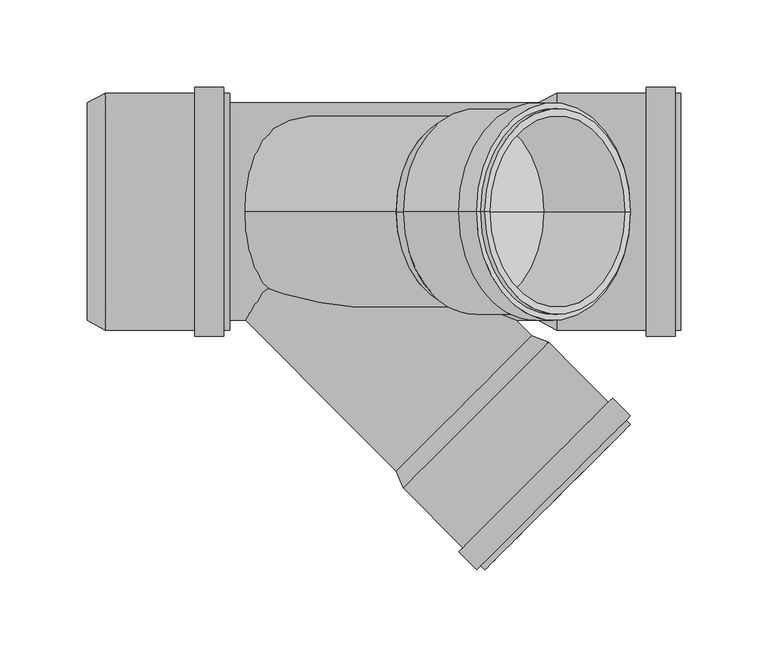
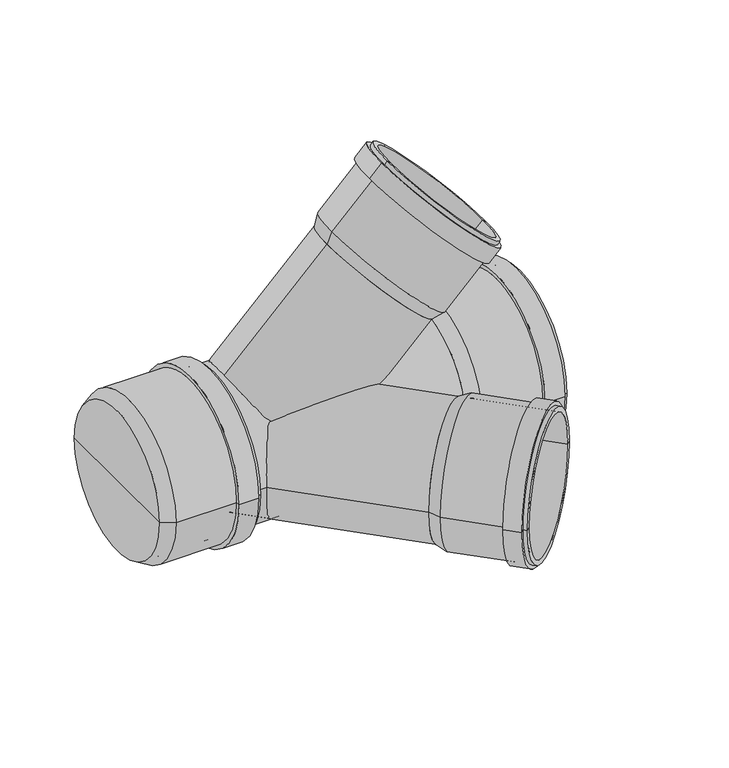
"""IFC4 building model written with IfcOpenShell, lengths in millimetres: pipe fitting geometry, pf_HTED : pf_HTED."""

from ifc_helpers import new_model, si_unit, point, frame, origin, origin_2d, place, context, project, spatial, polyline, circle_curve, trimmed, segment, composite_curve, outline, extrude, source, transform, mapped, element, save
from ifc_brep_helpers import plane_surface, cylinder_surface, revolved_surface, advanced_brep


def pipe_fitting_5b2e1e2c(model_context):
    return source(origin(), model_context, "Body", "SolidModel", [
        advanced_brep(
        [(149.1288202, 0.0, 71.3470742), (71.3470742, 0.0, 149.1288202), (75.1654508, 0.0, 158.7454724), (158.7454724, 0.0, 75.1654508), (110.2379472, 0.0, 110.2379472), (205.7680733, 0.0, 122.1880518), (122.1880518, 0.0, 205.7680733), (125.0871896, 0.0, 202.8689355), (202.8689355, 0.0, 125.0871896), (203.3639103, 0.0, 119.7838887), (119.7838887, 0.0, 203.3639103), (205.7680733, 0.0, 117.3797257), (117.3797257, 0.0, 205.7680733), (195.515025, 0.0, 107.1266773), (107.1266773, 0.0, 195.515025), (193.1108619, 0.0, 109.5308404), (109.5308404, 0.0, 193.1108619), (155.8463346, 0.0, 78.0645886), (78.0645886, 0.0, 155.8463346), (116.9554616, 0.0, 116.9554616)],
        [
            (0, 1, circle_curve(frame((110.2379472, 0.0, 110.2379472), z_axis=(0.707106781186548, 0.0, 0.7071067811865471), x_axis=(-0.7071067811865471, 0.0, 0.707106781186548)), 55.0)),
            (1, 2),
            (2, 3, circle_curve(frame((116.9554616, 0.0, 116.9554616), z_axis=(-0.707106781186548, 0.0, -0.7071067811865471), x_axis=(-0.7071067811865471, 0.0, 0.707106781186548)), 59.1)),
            (3, 0),
            (1, 0, circle_curve(frame((110.2379472, 0.0, 110.2379472), z_axis=(0.707106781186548, 0.0, 0.7071067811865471), x_axis=(-0.7071067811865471, 0.0, 0.707106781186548)), 55.0)),
            (3, 2, circle_curve(frame((116.9554616, 0.0, 116.9554616), z_axis=(-0.707106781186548, 0.0, -0.7071067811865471), x_axis=(-0.7071067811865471, 0.0, 0.707106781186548)), 59.1)),
            (4, 1),
            (0, 4),
            (5, 6, circle_curve(frame((163.9780626, 0.0, 163.9780626), z_axis=(0.707106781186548, 0.0, 0.7071067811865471), x_axis=(-0.7071067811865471, 0.0, 0.707106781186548)), 59.1)),
            (6, 7),
            (7, 8, circle_curve(frame((163.9780626, 0.0, 163.9780626), z_axis=(-0.707106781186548, 0.0, -0.7071067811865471), x_axis=(-0.7071067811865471, 0.0, 0.707106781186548)), 55.0)),
            (8, 5),
            (6, 5, circle_curve(frame((163.9780626, 0.0, 163.9780626), z_axis=(0.707106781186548, 0.0, 0.7071067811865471), x_axis=(-0.7071067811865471, 0.0, 0.707106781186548)), 59.1)),
            (8, 7, circle_curve(frame((163.9780626, 0.0, 163.9780626), z_axis=(-0.707106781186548, 0.0, -0.7071067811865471), x_axis=(-0.7071067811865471, 0.0, 0.707106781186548)), 55.0)),
            (9, 10, circle_curve(frame((161.5738995, 0.0, 161.5738995), z_axis=(0.707106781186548, 0.0, 0.7071067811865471), x_axis=(-0.7071067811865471, 0.0, 0.707106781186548)), 59.1)),
            (10, 6),
            (5, 9),
            (10, 9, circle_curve(frame((161.5738995, 0.0, 161.5738995), z_axis=(0.707106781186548, 0.0, 0.7071067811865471), x_axis=(-0.7071067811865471, 0.0, 0.707106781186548)), 59.1)),
            (11, 12, circle_curve(frame((161.5738995, 0.0, 161.5738995), z_axis=(0.707106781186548, 0.0, 0.7071067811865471), x_axis=(-0.7071067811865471, 0.0, 0.707106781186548)), 62.5)),
            (12, 10),
            (9, 11),
            (12, 11, circle_curve(frame((161.5738995, 0.0, 161.5738995), z_axis=(0.707106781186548, 0.0, 0.7071067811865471), x_axis=(-0.7071067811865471, 0.0, 0.707106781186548)), 62.5)),
            (13, 14, circle_curve(frame((151.3208512, 0.0, 151.3208512), z_axis=(0.707106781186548, 0.0, 0.7071067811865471), x_axis=(-0.7071067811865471, 0.0, 0.707106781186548)), 62.5)),
            (14, 12),
            (11, 13),
            (14, 13, circle_curve(frame((151.3208512, 0.0, 151.3208512), z_axis=(0.707106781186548, 0.0, 0.7071067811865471), x_axis=(-0.7071067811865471, 0.0, 0.707106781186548)), 62.5)),
            (15, 16, circle_curve(frame((151.3208512, 0.0, 151.3208512), z_axis=(0.707106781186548, 0.0, 0.7071067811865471), x_axis=(-0.7071067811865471, 0.0, 0.707106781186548)), 59.1)),
            (16, 14),
            (13, 15),
            (16, 15, circle_curve(frame((151.3208512, 0.0, 151.3208512), z_axis=(0.707106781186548, 0.0, 0.7071067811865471), x_axis=(-0.7071067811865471, 0.0, 0.707106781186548)), 59.1)),
            (2, 16),
            (15, 3),
            (17, 18, circle_curve(frame((116.9554616, 0.0, 116.9554616), z_axis=(0.707106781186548, 0.0, 0.7071067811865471), x_axis=(-0.7071067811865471, 0.0, 0.707106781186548)), 55.0)),
            (18, 19),
            (19, 17),
            (18, 17, circle_curve(frame((116.9554616, 0.0, 116.9554616), z_axis=(0.707106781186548, 0.0, 0.7071067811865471), x_axis=(-0.7071067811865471, 0.0, 0.707106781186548)), 55.0)),
            (7, 18),
            (17, 8),
        ],
        [
            revolved_surface(polyline([(75.1654508, 0.0, 158.7454724), (71.3470742, 0.0, 149.1288202)]), (110.2379472, 0.0, 110.2379472), (-0.707106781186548, 0.0, -0.7071067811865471)),
            plane_surface(frame((110.2379472, 0.0, 110.2379472), z_axis=(-0.707106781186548, 0.0, -0.7071067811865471), x_axis=(-0.7071067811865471, 0.0, 0.707106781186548))),
            plane_surface(frame((163.9780626, 0.0, 163.9780626), z_axis=(0.707106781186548, 0.0, 0.7071067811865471), x_axis=(-0.7071067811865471, 0.0, 0.707106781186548))),
            cylinder_surface(frame((110.2379472, 0.0, 110.2379472), z_axis=(-0.707106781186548, 0.0, -0.7071067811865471), x_axis=(-0.7071067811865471, 0.0, 0.707106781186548)), 59.1),
            plane_surface(frame((161.5738995, 0.0, 161.5738995), z_axis=(0.707106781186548, 0.0, 0.7071067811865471), x_axis=(-0.7071067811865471, 0.0, 0.707106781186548))),
            cylinder_surface(frame((110.2379472, 0.0, 110.2379472), z_axis=(-0.707106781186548, 0.0, -0.7071067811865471), x_axis=(-0.7071067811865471, 0.0, 0.707106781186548)), 62.5),
            plane_surface(frame((151.3208512, 0.0, 151.3208512), z_axis=(-0.707106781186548, 0.0, -0.7071067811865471), x_axis=(-0.7071067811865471, 0.0, 0.707106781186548))),
            plane_surface(frame((116.9554616, 0.0, 116.9554616), z_axis=(0.707106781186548, 0.0, 0.7071067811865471), x_axis=(-0.7071067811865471, 0.0, 0.707106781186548))),
            revolved_surface(polyline([(78.06458863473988, 0.0, 155.84633456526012), (125.08718963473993, 0.0, 202.86893556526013)]), (110.2379472, 0.0, 110.2379472), (-0.707106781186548, 0.0, -0.7071067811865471)),
        ],
        [
            (0, [[1, 2, 3, 4]]),
            (0, [[5, -4, 6, -2]]),
            (1, [[7, -1, 8]]),
            (1, [[-8, -5, -7]]),
            (2, [[9, 10, 11, 12]]),
            (2, [[13, -12, 14, -10]]),
            (3, [[15, 16, -9, 17]]),
            (3, [[18, -17, -13, -16]]),
            (4, [[19, 20, -15, 21]]),
            (4, [[22, -21, -18, -20]]),
            (5, [[23, 24, -19, 25]]),
            (5, [[26, -25, -22, -24]]),
            (6, [[27, 28, -23, 29]]),
            (6, [[30, -29, -26, -28]]),
            (3, [[-3, 31, -27, 32]]),
            (3, [[-6, -32, -30, -31]]),
            (7, [[33, 34, 35]]),
            (7, [[36, -35, -34]]),
            (8, [[-11, 37, -33, 38]]),
            (8, [[-14, -38, -36, -37]]),
        ],
    ),
        advanced_brep(
        [(71.3470742, -149.1288202, 0.0), (149.1288202, -71.3470742, 0.0), (158.7454724, -75.1654508, 0.0), (75.1654508, -158.7454724, 0.0), (110.2379472, -110.2379472, 0.0), (122.1880518, -205.7680733, 0.0), (205.7680733, -122.1880518, 0.0), (202.8689355, -125.0871896, 0.0), (125.0871896, -202.8689355, 0.0), (119.7838887, -203.3639103, 0.0), (203.3639103, -119.7838887, 0.0), (117.3797257, -205.7680733, 0.0), (205.7680733, -117.3797257, 0.0), (107.1266773, -195.515025, 0.0), (195.515025, -107.1266773, 0.0), (109.5308404, -193.1108619, 0.0), (193.1108619, -109.5308404, 0.0), (78.0645886, -155.8463346, 0.0), (155.8463346, -78.0645886, 0.0), (116.9554616, -116.9554616, 0.0)],
        [
            (0, 1, circle_curve(frame((110.2379472, -110.2379472, 0.0), z_axis=(0.7071067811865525, -0.7071067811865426, 0.0), x_axis=(0.7071067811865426, 0.7071067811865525, 0.0)), 55.0)),
            (1, 2),
            (2, 3, circle_curve(frame((116.9554616, -116.9554616, 0.0), z_axis=(-0.7071067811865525, 0.7071067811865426, 0.0), x_axis=(0.7071067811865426, 0.7071067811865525, 0.0)), 59.1)),
            (3, 0),
            (1, 0, circle_curve(frame((110.2379472, -110.2379472, 0.0), z_axis=(0.7071067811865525, -0.7071067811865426, 0.0), x_axis=(0.7071067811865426, 0.7071067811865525, 0.0)), 55.0)),
            (3, 2, circle_curve(frame((116.9554616, -116.9554616, 0.0), z_axis=(-0.7071067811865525, 0.7071067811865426, 0.0), x_axis=(0.7071067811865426, 0.7071067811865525, 0.0)), 59.1)),
            (4, 1),
            (0, 4),
            (5, 6, circle_curve(frame((163.9780626, -163.9780626, 0.0), z_axis=(0.7071067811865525, -0.7071067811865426, 0.0), x_axis=(0.7071067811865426, 0.7071067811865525, 0.0)), 59.1)),
            (6, 7),
            (7, 8, circle_curve(frame((163.9780626, -163.9780626, 0.0), z_axis=(-0.7071067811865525, 0.7071067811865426, 0.0), x_axis=(0.7071067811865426, 0.7071067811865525, 0.0)), 55.0)),
            (8, 5),
            (6, 5, circle_curve(frame((163.9780626, -163.9780626, 0.0), z_axis=(0.7071067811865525, -0.7071067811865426, 0.0), x_axis=(0.7071067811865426, 0.7071067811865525, 0.0)), 59.1)),
            (8, 7, circle_curve(frame((163.9780626, -163.9780626, 0.0), z_axis=(-0.7071067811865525, 0.7071067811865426, 0.0), x_axis=(0.7071067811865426, 0.7071067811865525, 0.0)), 55.0)),
            (9, 10, circle_curve(frame((161.5738995, -161.5738995, 0.0), z_axis=(0.7071067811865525, -0.7071067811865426, 0.0), x_axis=(0.7071067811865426, 0.7071067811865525, 0.0)), 59.1)),
            (10, 6),
            (5, 9),
            (10, 9, circle_curve(frame((161.5738995, -161.5738995, 0.0), z_axis=(0.7071067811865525, -0.7071067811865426, 0.0), x_axis=(0.7071067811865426, 0.7071067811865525, 0.0)), 59.1)),
            (11, 12, circle_curve(frame((161.5738995, -161.5738995, 0.0), z_axis=(0.7071067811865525, -0.7071067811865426, 0.0), x_axis=(0.7071067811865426, 0.7071067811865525, 0.0)), 62.5)),
            (12, 10),
            (9, 11),
            (12, 11, circle_curve(frame((161.5738995, -161.5738995, 0.0), z_axis=(0.7071067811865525, -0.7071067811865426, 0.0), x_axis=(0.7071067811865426, 0.7071067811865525, 0.0)), 62.5)),
            (13, 14, circle_curve(frame((151.3208512, -151.3208512, 0.0), z_axis=(0.7071067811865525, -0.7071067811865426, 0.0), x_axis=(0.7071067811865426, 0.7071067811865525, 0.0)), 62.5)),
            (14, 12),
            (11, 13),
            (14, 13, circle_curve(frame((151.3208512, -151.3208512, 0.0), z_axis=(0.7071067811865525, -0.7071067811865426, 0.0), x_axis=(0.7071067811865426, 0.7071067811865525, 0.0)), 62.5)),
            (15, 16, circle_curve(frame((151.3208512, -151.3208512, 0.0), z_axis=(0.7071067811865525, -0.7071067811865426, 0.0), x_axis=(0.7071067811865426, 0.7071067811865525, 0.0)), 59.1)),
            (16, 14),
            (13, 15),
            (16, 15, circle_curve(frame((151.3208512, -151.3208512, 0.0), z_axis=(0.7071067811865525, -0.7071067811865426, 0.0), x_axis=(0.7071067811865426, 0.7071067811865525, 0.0)), 59.1)),
            (2, 16),
            (15, 3),
            (17, 18, circle_curve(frame((116.9554616, -116.9554616, 0.0), z_axis=(0.7071067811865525, -0.7071067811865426, 0.0), x_axis=(0.7071067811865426, 0.7071067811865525, 0.0)), 55.0)),
            (18, 19),
            (19, 17),
            (18, 17, circle_curve(frame((116.9554616, -116.9554616, 0.0), z_axis=(0.7071067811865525, -0.7071067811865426, 0.0), x_axis=(0.7071067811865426, 0.7071067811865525, 0.0)), 55.0)),
            (7, 18),
            (17, 8),
        ],
        [
            revolved_surface(polyline([(158.7454724, -75.1654508, 0.0), (149.1288202, -71.3470742, 0.0)]), (110.2379472, -110.2379472, 0.0), (-0.7071067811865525, 0.7071067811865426, 0.0)),
            plane_surface(frame((110.2379472, -110.2379472, 0.0), z_axis=(-0.7071067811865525, 0.7071067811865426, 0.0), x_axis=(0.7071067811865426, 0.7071067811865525, 0.0))),
            plane_surface(frame((163.9780626, -163.9780626, 0.0), z_axis=(0.7071067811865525, -0.7071067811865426, 0.0), x_axis=(0.7071067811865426, 0.7071067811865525, 0.0))),
            cylinder_surface(frame((110.2379472, -110.2379472, 0.0), z_axis=(-0.7071067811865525, 0.7071067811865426, 0.0), x_axis=(0.7071067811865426, 0.7071067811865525, 0.0)), 59.1),
            plane_surface(frame((161.5738995, -161.5738995, 0.0), z_axis=(0.7071067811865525, -0.7071067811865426, 0.0), x_axis=(0.7071067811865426, 0.7071067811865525, 0.0))),
            cylinder_surface(frame((110.2379472, -110.2379472, 0.0), z_axis=(-0.7071067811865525, 0.7071067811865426, 0.0), x_axis=(0.7071067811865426, 0.7071067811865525, 0.0)), 62.5),
            plane_surface(frame((151.3208512, -151.3208512, 0.0), z_axis=(-0.7071067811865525, 0.7071067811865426, 0.0), x_axis=(0.7071067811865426, 0.7071067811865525, 0.0))),
            plane_surface(frame((116.9554616, -116.9554616, 0.0), z_axis=(0.7071067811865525, -0.7071067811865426, 0.0), x_axis=(0.7071067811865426, 0.7071067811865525, 0.0))),
            revolved_surface(polyline([(155.8463345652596, -78.0645886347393, 0.0), (202.86893556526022, -125.08718963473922, 0.0)]), (110.2379472, -110.2379472, 0.0), (-0.7071067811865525, 0.7071067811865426, 0.0)),
        ],
        [
            (0, [[1, 2, 3, 4]]),
            (0, [[5, -4, 6, -2]]),
            (1, [[7, -1, 8]]),
            (1, [[-8, -5, -7]]),
            (2, [[9, 10, 11, 12]]),
            (2, [[13, -12, 14, -10]]),
            (3, [[15, 16, -9, 17]]),
            (3, [[18, -17, -13, -16]]),
            (4, [[19, 20, -15, 21]]),
            (4, [[22, -21, -18, -20]]),
            (5, [[23, 24, -19, 25]]),
            (5, [[26, -25, -22, -24]]),
            (6, [[27, 28, -23, 29]]),
            (6, [[30, -29, -26, -28]]),
            (3, [[-3, 31, -27, 32]]),
            (3, [[-6, -32, -30, -31]]),
            (7, [[33, 34, 35]]),
            (7, [[36, -35, -34]]),
            (8, [[-11, 37, -33, 38]]),
            (8, [[-14, -38, -36, -37]]),
        ],
    ),
        advanced_brep(
        [(152.8, -62.5, 0.0), (152.8, 62.5, 0.0), (163.3, 68.1, 0.0), (163.3, -68.1, 0.0), (152.8, 0.0, 0.0), (234.8, -68.1, 0.0), (234.8, 68.1, 0.0), (234.8, 62.5, 0.0), (234.8, -62.5, 0.0), (231.4, -68.1, 0.0), (231.4, 68.1, 0.0), (231.4, -71.5, 0.0), (231.4, 71.5, 0.0), (214.8, -71.5, 0.0), (214.8, 71.5, 0.0), (214.8, -68.1, 0.0), (214.8, 68.1, 0.0), (163.3, -62.5, 0.0), (163.3, 62.5, 0.0), (163.3, 0.0, 0.0)],
        [
            (0, 1, circle_curve(frame((152.8, 0.0, 0.0), z_axis=(1.0, 0.0, 0.0), x_axis=(0.0, 1.0, 0.0)), 62.5)),
            (1, 2),
            (2, 3, circle_curve(frame((163.3, 0.0, 0.0), z_axis=(-1.0, 0.0, 0.0), x_axis=(0.0, 1.0, 0.0)), 68.1)),
            (3, 0),
            (1, 0, circle_curve(frame((152.8, 0.0, 0.0), z_axis=(1.0, 0.0, 0.0), x_axis=(0.0, 1.0, 0.0)), 62.5)),
            (3, 2, circle_curve(frame((163.3, 0.0, 0.0), z_axis=(-1.0, 0.0, 0.0), x_axis=(0.0, 1.0, 0.0)), 68.1)),
            (4, 1),
            (0, 4),
            (5, 6, circle_curve(frame((234.8, 0.0, 0.0), z_axis=(1.0, 0.0, 0.0), x_axis=(0.0, 1.0, 0.0)), 68.1)),
            (6, 7),
            (7, 8, circle_curve(frame((234.8, 0.0, 0.0), z_axis=(-1.0, 0.0, 0.0), x_axis=(0.0, 1.0, 0.0)), 62.5)),
            (8, 5),
            (6, 5, circle_curve(frame((234.8, 0.0, 0.0), z_axis=(1.0, 0.0, 0.0), x_axis=(0.0, 1.0, 0.0)), 68.1)),
            (8, 7, circle_curve(frame((234.8, 0.0, 0.0), z_axis=(-1.0, 0.0, 0.0), x_axis=(0.0, 1.0, 0.0)), 62.5)),
            (9, 10, circle_curve(frame((231.4, 0.0, 0.0), z_axis=(1.0, 0.0, 0.0), x_axis=(0.0, 1.0, 0.0)), 68.1)),
            (10, 6),
            (5, 9),
            (10, 9, circle_curve(frame((231.4, 0.0, 0.0), z_axis=(1.0, 0.0, 0.0), x_axis=(0.0, 1.0, 0.0)), 68.1)),
            (11, 12, circle_curve(frame((231.4, 0.0, 0.0), z_axis=(1.0, 0.0, 0.0), x_axis=(0.0, 1.0, 0.0)), 71.5)),
            (12, 10),
            (9, 11),
            (12, 11, circle_curve(frame((231.4, 0.0, 0.0), z_axis=(1.0, 0.0, 0.0), x_axis=(0.0, 1.0, 0.0)), 71.5)),
            (13, 14, circle_curve(frame((214.8, 0.0, 0.0), z_axis=(1.0, 0.0, 0.0), x_axis=(0.0, 1.0, 0.0)), 71.5)),
            (14, 12),
            (11, 13),
            (14, 13, circle_curve(frame((214.8, 0.0, 0.0), z_axis=(1.0, 0.0, 0.0), x_axis=(0.0, 1.0, 0.0)), 71.5)),
            (15, 16, circle_curve(frame((214.8, 0.0, 0.0), z_axis=(1.0, 0.0, 0.0), x_axis=(0.0, 1.0, 0.0)), 68.1)),
            (16, 14),
            (13, 15),
            (16, 15, circle_curve(frame((214.8, 0.0, 0.0), z_axis=(1.0, 0.0, 0.0), x_axis=(0.0, 1.0, 0.0)), 68.1)),
            (2, 16),
            (15, 3),
            (17, 18, circle_curve(frame((163.3, 0.0, 0.0), z_axis=(1.0, 0.0, 0.0), x_axis=(0.0, 1.0, 0.0)), 62.5)),
            (18, 19),
            (19, 17),
            (18, 17, circle_curve(frame((163.3, 0.0, 0.0), z_axis=(1.0, 0.0, 0.0), x_axis=(0.0, 1.0, 0.0)), 62.5)),
            (7, 18),
            (17, 8),
        ],
        [
            revolved_surface(polyline([(163.3, 68.1, 0.0), (152.8, 62.5, 0.0)]), (152.8, 0.0, 0.0), (-1.0, 0.0, 0.0)),
            plane_surface(frame((152.8, 0.0, 0.0), z_axis=(-1.0, 0.0, 0.0), x_axis=(0.0, 1.0, 0.0))),
            plane_surface(frame((234.8, 0.0, 0.0), z_axis=(1.0, 0.0, 0.0), x_axis=(0.0, 1.0, 0.0))),
            cylinder_surface(frame((152.8, 0.0, 0.0), z_axis=(-1.0, 0.0, 0.0), x_axis=(0.0, 1.0, 0.0)), 68.1),
            plane_surface(frame((231.4, 0.0, 0.0), z_axis=(1.0, 0.0, 0.0), x_axis=(0.0, 1.0, 0.0))),
            cylinder_surface(frame((152.8, 0.0, 0.0), z_axis=(-1.0, 0.0, 0.0), x_axis=(0.0, 1.0, 0.0)), 71.5),
            plane_surface(frame((214.8, 0.0, 0.0), z_axis=(-1.0, 0.0, 0.0), x_axis=(0.0, 1.0, 0.0))),
            plane_surface(frame((163.3, 0.0, 0.0), z_axis=(1.0, 0.0, 0.0), x_axis=(0.0, 1.0, 0.0))),
            revolved_surface(polyline([(163.3, 62.5, 0.0), (234.8, 62.5, 0.0)]), (152.8, 0.0, 0.0), (-1.0, 0.0, 0.0)),
        ],
        [
            (0, [[1, 2, 3, 4]]),
            (0, [[5, -4, 6, -2]]),
            (1, [[7, -1, 8]]),
            (1, [[-8, -5, -7]]),
            (2, [[9, 10, 11, 12]]),
            (2, [[13, -12, 14, -10]]),
            (3, [[15, 16, -9, 17]]),
            (3, [[18, -17, -13, -16]]),
            (4, [[19, 20, -15, 21]]),
            (4, [[22, -21, -18, -20]]),
            (5, [[23, 24, -19, 25]]),
            (5, [[26, -25, -22, -24]]),
            (6, [[27, 28, -23, 29]]),
            (6, [[30, -29, -26, -28]]),
            (3, [[-3, 31, -27, 32]]),
            (3, [[-6, -32, -30, -31]]),
            (7, [[33, 34, 35]]),
            (7, [[36, -35, -34]]),
            (8, [[-11, 37, -33, 38]]),
            (8, [[-14, -38, -36, -37]]),
        ],
    ),
        advanced_brep(
        [(-106.4, -62.5, 0.0), (-106.4, 62.5, 0.0), (-95.9, 68.1, 0.0), (-95.9, -68.1, 0.0), (-106.4, 0.0, 0.0), (-24.4, -68.1, 0.0), (-24.4, 68.1, 0.0), (-24.4, 62.5, 0.0), (-24.4, -62.5, 0.0), (-27.8, -68.1, 0.0), (-27.8, 68.1, 0.0), (-27.8, -71.5, 0.0), (-27.8, 71.5, 0.0), (-44.4, -71.5, 0.0), (-44.4, 71.5, 0.0), (-44.4, -68.1, 0.0), (-44.4, 68.1, 0.0), (-95.9, -62.5, 0.0), (-95.9, 62.5, 0.0), (-95.9, 0.0, 0.0)],
        [
            (0, 1, circle_curve(frame((-106.4, 0.0, 0.0), z_axis=(1.0, 0.0, 0.0), x_axis=(0.0, 1.0, 0.0)), 62.5)),
            (1, 2),
            (2, 3, circle_curve(frame((-95.9, 0.0, 0.0), z_axis=(-1.0, 0.0, 0.0), x_axis=(0.0, 1.0, 0.0)), 68.1)),
            (3, 0),
            (1, 0, circle_curve(frame((-106.4, 0.0, 0.0), z_axis=(1.0, 0.0, 0.0), x_axis=(0.0, 1.0, 0.0)), 62.5)),
            (3, 2, circle_curve(frame((-95.9, 0.0, 0.0), z_axis=(-1.0, 0.0, 0.0), x_axis=(0.0, 1.0, 0.0)), 68.1)),
            (4, 1),
            (0, 4),
            (5, 6, circle_curve(frame((-24.4, 0.0, 0.0), z_axis=(1.0, 0.0, 0.0), x_axis=(0.0, 1.0, 0.0)), 68.1)),
            (6, 7),
            (7, 8, circle_curve(frame((-24.4, 0.0, 0.0), z_axis=(-1.0, 0.0, 0.0), x_axis=(0.0, 1.0, 0.0)), 62.5)),
            (8, 5),
            (6, 5, circle_curve(frame((-24.4, 0.0, 0.0), z_axis=(1.0, 0.0, 0.0), x_axis=(0.0, 1.0, 0.0)), 68.1)),
            (8, 7, circle_curve(frame((-24.4, 0.0, 0.0), z_axis=(-1.0, 0.0, 0.0), x_axis=(0.0, 1.0, 0.0)), 62.5)),
            (9, 10, circle_curve(frame((-27.8, 0.0, 0.0), z_axis=(1.0, 0.0, 0.0), x_axis=(0.0, 1.0, 0.0)), 68.1)),
            (10, 6),
            (5, 9),
            (10, 9, circle_curve(frame((-27.8, 0.0, 0.0), z_axis=(1.0, 0.0, 0.0), x_axis=(0.0, 1.0, 0.0)), 68.1)),
            (11, 12, circle_curve(frame((-27.8, 0.0, 0.0), z_axis=(1.0, 0.0, 0.0), x_axis=(0.0, 1.0, 0.0)), 71.5)),
            (12, 10),
            (9, 11),
            (12, 11, circle_curve(frame((-27.8, 0.0, 0.0), z_axis=(1.0, 0.0, 0.0), x_axis=(0.0, 1.0, 0.0)), 71.5)),
            (13, 14, circle_curve(frame((-44.4, 0.0, 0.0), z_axis=(1.0, 0.0, 0.0), x_axis=(0.0, 1.0, 0.0)), 71.5)),
            (14, 12),
            (11, 13),
            (14, 13, circle_curve(frame((-44.4, 0.0, 0.0), z_axis=(1.0, 0.0, 0.0), x_axis=(0.0, 1.0, 0.0)), 71.5)),
            (15, 16, circle_curve(frame((-44.4, 0.0, 0.0), z_axis=(1.0, 0.0, 0.0), x_axis=(0.0, 1.0, 0.0)), 68.1)),
            (16, 14),
            (13, 15),
            (16, 15, circle_curve(frame((-44.4, 0.0, 0.0), z_axis=(1.0, 0.0, 0.0), x_axis=(0.0, 1.0, 0.0)), 68.1)),
            (2, 16),
            (15, 3),
            (17, 18, circle_curve(frame((-95.9, 0.0, 0.0), z_axis=(1.0, 0.0, 0.0), x_axis=(0.0, 1.0, 0.0)), 62.5)),
            (18, 19),
            (19, 17),
            (18, 17, circle_curve(frame((-95.9, 0.0, 0.0), z_axis=(1.0, 0.0, 0.0), x_axis=(0.0, 1.0, 0.0)), 62.5)),
            (7, 18),
            (17, 8),
        ],
        [
            revolved_surface(polyline([(-95.9, 68.1, 0.0), (-106.4, 62.5, 0.0)]), (-106.4, 0.0, 0.0), (-1.0, 0.0, 0.0)),
            plane_surface(frame((-106.4, 0.0, 0.0), z_axis=(-1.0, 0.0, 0.0), x_axis=(0.0, 1.0, 0.0))),
            plane_surface(frame((-24.4, 0.0, 0.0), z_axis=(1.0, 0.0, 0.0), x_axis=(0.0, 1.0, 0.0))),
            cylinder_surface(frame((-106.4, 0.0, 0.0), z_axis=(-1.0, 0.0, 0.0), x_axis=(0.0, 1.0, 0.0)), 68.1),
            plane_surface(frame((-27.8, 0.0, 0.0), z_axis=(1.0, 0.0, 0.0), x_axis=(0.0, 1.0, 0.0))),
            cylinder_surface(frame((-106.4, 0.0, 0.0), z_axis=(-1.0, 0.0, 0.0), x_axis=(0.0, 1.0, 0.0)), 71.5),
            plane_surface(frame((-44.4, 0.0, 0.0), z_axis=(-1.0, 0.0, 0.0), x_axis=(0.0, 1.0, 0.0))),
            plane_surface(frame((-95.9, 0.0, 0.0), z_axis=(1.0, 0.0, 0.0), x_axis=(0.0, 1.0, 0.0))),
            revolved_surface(polyline([(-95.9, 62.5, 0.0), (-24.400000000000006, 62.5, 0.0)]), (-106.4, 0.0, 0.0), (-1.0, 0.0, 0.0)),
        ],
        [
            (0, [[1, 2, 3, 4]]),
            (0, [[5, -4, 6, -2]]),
            (1, [[7, -1, 8]]),
            (1, [[-8, -5, -7]]),
            (2, [[9, 10, 11, 12]]),
            (2, [[13, -12, 14, -10]]),
            (3, [[15, 16, -9, 17]]),
            (3, [[18, -17, -13, -16]]),
            (4, [[19, 20, -15, 21]]),
            (4, [[22, -21, -18, -20]]),
            (5, [[23, 24, -19, 25]]),
            (5, [[26, -25, -22, -24]]),
            (6, [[27, 28, -23, 29]]),
            (6, [[30, -29, -26, -28]]),
            (3, [[-3, 31, -27, 32]]),
            (3, [[-6, -32, -30, -31]]),
            (7, [[33, 34, 35]]),
            (7, [[36, -35, -34]]),
            (8, [[-11, 37, -33, 38]]),
            (8, [[-14, -38, -36, -37]]),
        ],
    ),
        extrude(outline(composite_curve([segment(trimmed(circle_curve(origin_2d(), 55.0), [point((0.0, 55.0))], [point((0.0, -55.0))], False, "CARTESIAN"), True, "CONTINUOUS"), segment(trimmed(circle_curve(origin_2d(), 55.0), [point((0.0, -55.0))], [point((0.0, 55.0))], False, "CARTESIAN"), True, "CONTINUOUS")], self_intersect=False)), frame((0.0, 0.0, 0.0), z_axis=(0.7071067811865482, 0.0, 0.7071067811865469), x_axis=(0.0, -1.0, 0.0)), (0.0, 0.0, 1.0), 155.9),
        extrude(outline(composite_curve([segment(trimmed(circle_curve(origin_2d(), 55.0), [point((0.0, -55.0))], [point((0.0, 55.0))], False, "CARTESIAN"), True, "CONTINUOUS"), segment(trimmed(circle_curve(origin_2d(), 55.0), [point((0.0, 55.0))], [point((0.0, -55.0))], False, "CARTESIAN"), True, "CONTINUOUS")], self_intersect=False)), frame((110.2379472, -110.2379472, 0.0), z_axis=(-0.707106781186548, 0.707106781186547, 0.0), x_axis=(0.0, 0.0, 1.0)), (0.0, 0.0, 1.0), 155.9),
        extrude(outline(composite_curve([segment(trimmed(circle_curve(origin_2d(), 62.5), [point((-62.5, 0.0))], [point((62.5, 0.0))], False, "CARTESIAN"), True, "CONTINUOUS"), segment(trimmed(circle_curve(origin_2d(), 62.5), [point((62.5, 0.0))], [point((-62.5, 0.0))], False, "CARTESIAN"), True, "CONTINUOUS")], self_intersect=False)), frame((-95.9, 0.0, 0.0), z_axis=(1.0, 0.0, 0.0), x_axis=(0.0, 1.0, 0.0)), (0.0, 0.0, 1.0), 248.7),
    ])


if __name__ == "__main__":
    model = new_model("IFC4")
    model_context = context("Model", 3, world=origin())
    ifc_project = project(units=[si_unit("LENGTHUNIT", "METRE", prefix="MILLI")], contexts=[model_context])
    site = spatial("IfcSite", under=ifc_project)
    building = spatial("IfcBuilding", under=site)
    placement = place(None, origin())
    pipe_fitting_shape = pipe_fitting_5b2e1e2c(model_context)
    element("IfcPipeFitting", 1, ObjectType="pf_HTED : pf_HTED", at=placement, inside=building, context=model_context, shape_type="MappedRepresentation", body=[
        mapped(pipe_fitting_shape, transform((0.0, 0.0, 0.0), x_axis=(1.0, 0.0, 0.0), y_axis=(0.0, 1.0, 0.0), z_axis=(0.0, 0.0, 1.0))),
    ])
    save(model, "model.ifc")
